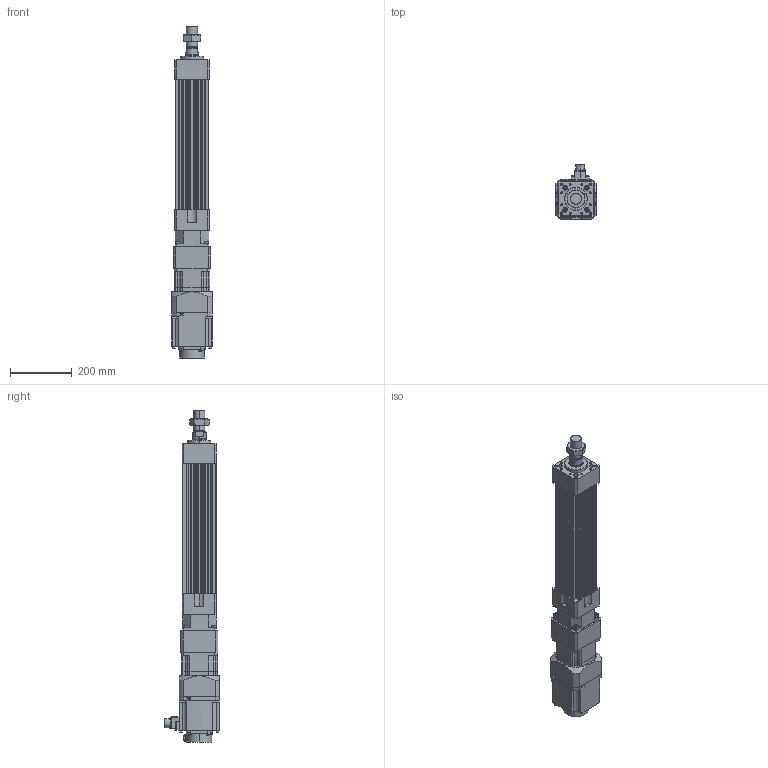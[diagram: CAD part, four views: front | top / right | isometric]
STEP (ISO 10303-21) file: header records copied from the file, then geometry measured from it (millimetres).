
FILE_DESCRIPTION (( 'STEP AP203' ), '1' );
FILE_NAME ('HES110NS(HS)-S250-W015G00-M.STEP', '2023-01-27T10:33:02', ( 'tms' ), ( '' ), 'SwSTEP 2.0', 'SolidWorks 2013', '' );
FILE_SCHEMA (( 'CONFIG_CONTROL_DESIGN' ));
Length unit declared in the file: millimetre
Products named in the file (8): HG-SR152; P0401400706; M36X1.5P; AB1151; HES110-S250-G120; HES110NS(HS)-S250-W015G00-M; HES110 ROD M ST250; AB115-003[HG-SR152]
Assembly tree (7 placements, depth 3):
  HES110NS(HS)-S250-W015G00-M
    HES110-S250-G120
    HES110 ROD M ST250
    M36X1.5P
    AB115-003[HG-SR152]
      AB1151
      P0401400706
    HG-SR152
Bounding box: 130 x 177.49 x 1071.5 mm (x, y, z)
Volume: 6840953.4 mm3; surface area: 931554.6 mm2
Topology: 4 solids, 15 shells, 1202 faces, 3026 edges, 1951 vertices
Faces by surface type: plane 551, cylinder 537, cone 102, bspline 8, torus 4
Entity records: 37654 total; most frequent: CARTESIAN_POINT 7134, DIRECTION 6533, ORIENTED_EDGE 5960, EDGE_CURVE 2990, AXIS2_PLACEMENT_3D 2410, VERTEX_POINT 1951, VECTOR 1713, LINE 1713
